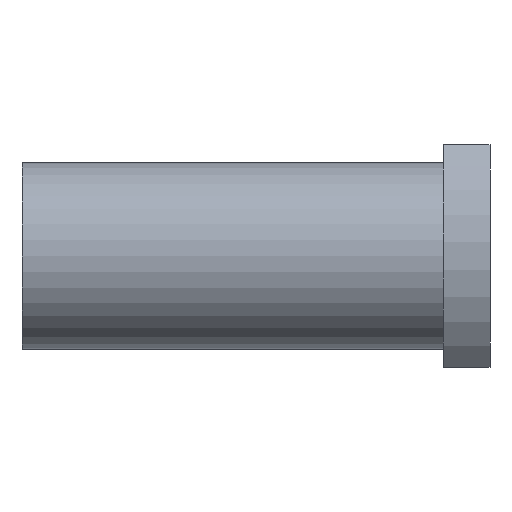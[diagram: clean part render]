
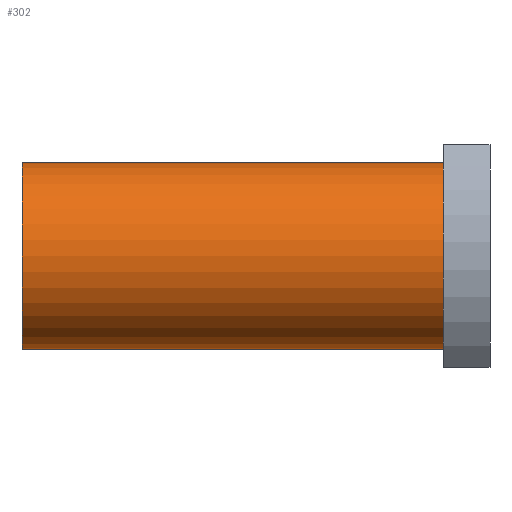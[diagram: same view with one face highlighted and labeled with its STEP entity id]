
A CAD part, front view. The second image highlights one B-rep face of the part: STEP entity #302.
In plain terms, the highlighted cylindrical face has radius 16 mm (diameter 32 mm), a full revolution.
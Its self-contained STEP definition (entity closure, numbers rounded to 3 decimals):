
#37=CYLINDRICAL_SURFACE('',#346,16.);
#60=ORIENTED_EDGE('',*,*,#124,.T.);
#61=ORIENTED_EDGE('',*,*,#125,.F.);
#124=EDGE_CURVE('',#156,#156,#182,.T.);
#125=EDGE_CURVE('',#157,#157,#183,.T.);
#156=VERTEX_POINT('',#508);
#157=VERTEX_POINT('',#510);
#182=CIRCLE('',#347,16.);
#183=CIRCLE('',#348,16.);
#205=EDGE_LOOP('',(#60));
#206=EDGE_LOOP('',(#61));
#251=FACE_BOUND('',#205,.T.);
#252=FACE_BOUND('',#206,.T.);
#302=ADVANCED_FACE('',(#251,#252),#37,.T.);
#346=AXIS2_PLACEMENT_3D('',#506,#410,#411);
#347=AXIS2_PLACEMENT_3D('',#507,#412,#413);
#348=AXIS2_PLACEMENT_3D('',#509,#414,#415);
#410=DIRECTION('',(-1.,0.,0.));
#411=DIRECTION('',(0.,0.,1.));
#412=DIRECTION('',(1.,0.,0.));
#413=DIRECTION('',(0.,0.,-1.));
#414=DIRECTION('',(1.,0.,0.));
#415=DIRECTION('',(0.,0.,-1.));
#506=CARTESIAN_POINT('',(40.,0.,0.));
#507=CARTESIAN_POINT('',(-40.,0.,0.));
#508=CARTESIAN_POINT('',(-40.,0.,-16.));
#509=CARTESIAN_POINT('',(32.,0.,0.));
#510=CARTESIAN_POINT('',(32.,0.,-16.));
